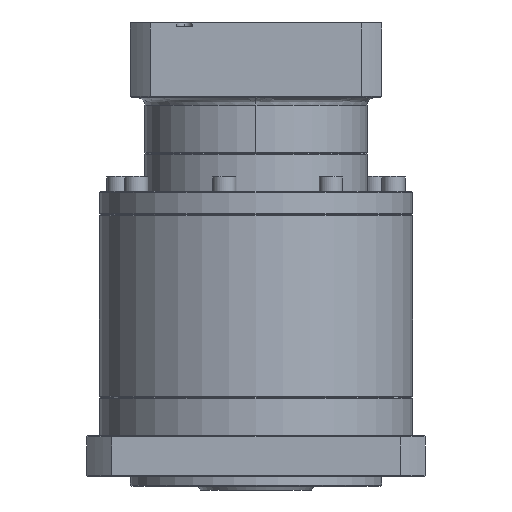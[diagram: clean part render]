
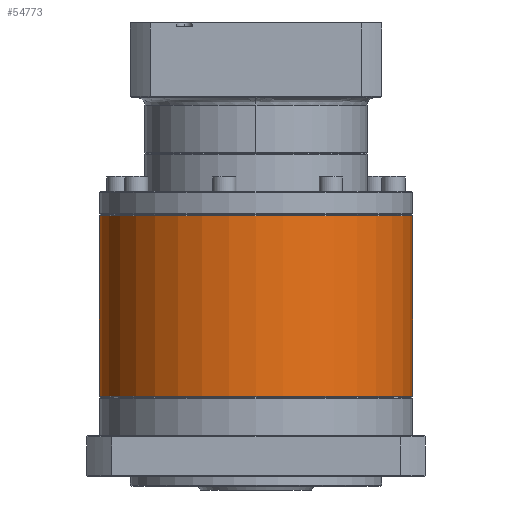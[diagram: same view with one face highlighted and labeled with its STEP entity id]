
A CAD part, left-side view. The second image highlights one B-rep face of the part: STEP entity #54773.
In plain terms, the highlighted cylindrical face has radius 81 mm (diameter 162 mm), a partial arc.
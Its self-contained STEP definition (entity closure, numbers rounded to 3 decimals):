
#4267 = EDGE_CURVE ( 'NONE', #60833, #15289, #89149, .T. ) ;
#10867 = ORIENTED_EDGE ( 'NONE', *, *, #86297, .F. ) ;
#14238 = DIRECTION ( 'NONE',  ( 0., 0., -1. ) ) ;
#14557 = EDGE_CURVE ( 'NONE', #24209, #60833, #25691, .T. ) ;
#15289 = VERTEX_POINT ( 'NONE', #16529 ) ;
#16529 = CARTESIAN_POINT ( 'NONE',  ( -129.032, 142.212, -169.292 ) ) ;
#21270 = DIRECTION ( 'NONE',  ( 0., 1., 0. ) ) ;
#22783 = VECTOR ( 'NONE', #81567, 1000. ) ;
#24209 = VERTEX_POINT ( 'NONE', #96293 ) ;
#24520 = ORIENTED_EDGE ( 'NONE', *, *, #35045, .T. ) ;
#24865 = DIRECTION ( 'NONE',  ( 0., 0., -1. ) ) ;
#25691 = CIRCLE ( 'NONE', #41854, 81. ) ;
#33601 = CARTESIAN_POINT ( 'NONE',  ( -129.032, 61.212, -169.292 ) ) ;
#35045 = EDGE_CURVE ( 'NONE', #15289, #67479, #41934, .T. ) ;
#36294 = ORIENTED_EDGE ( 'NONE', *, *, #14557, .T. ) ;
#38088 = AXIS2_PLACEMENT_3D ( 'NONE', #53869, #14238, #39109 ) ;
#39109 = DIRECTION ( 'NONE',  ( 0., 1., 0. ) ) ;
#41854 = AXIS2_PLACEMENT_3D ( 'NONE', #46805, #69282, #21270 ) ;
#41934 = CIRCLE ( 'NONE', #92979, 81. ) ;
#44084 = LINE ( 'NONE', #73886, #22783 ) ;
#46805 = CARTESIAN_POINT ( 'NONE',  ( -129.032, 61.212, -75.792 ) ) ;
#47099 = ORIENTED_EDGE ( 'NONE', *, *, #4267, .T. ) ;
#49677 = DIRECTION ( 'NONE',  ( 0., 1., 0. ) ) ;
#53869 = CARTESIAN_POINT ( 'NONE',  ( -129.032, 61.212, -75.292 ) ) ;
#53995 = VECTOR ( 'NONE', #24865, 1000. ) ;
#54773 = ADVANCED_FACE ( 'NONE', ( #97449 ), #92462, .T. ) ;
#60833 = VERTEX_POINT ( 'NONE', #77684 ) ;
#67479 = VERTEX_POINT ( 'NONE', #81764 ) ;
#69282 = DIRECTION ( 'NONE',  ( 0., 0., -1. ) ) ;
#71315 = EDGE_LOOP ( 'NONE', ( #10867, #36294, #47099, #24520 ) ) ;
#71860 = CARTESIAN_POINT ( 'NONE',  ( -129.032, 142.212, -75.292 ) ) ;
#73886 = CARTESIAN_POINT ( 'NONE',  ( -129.032, -19.788, -75.292 ) ) ;
#77684 = CARTESIAN_POINT ( 'NONE',  ( -129.032, 142.212, -75.792 ) ) ;
#81567 = DIRECTION ( 'NONE',  ( 0., 0., -1. ) ) ;
#81764 = CARTESIAN_POINT ( 'NONE',  ( -129.032, -19.788, -169.292 ) ) ;
#82252 = DIRECTION ( 'NONE',  ( 0., 0., 1. ) ) ;
#86297 = EDGE_CURVE ( 'NONE', #24209, #67479, #44084, .T. ) ;
#89149 = LINE ( 'NONE', #71860, #53995 ) ;
#92462 = CYLINDRICAL_SURFACE ( 'NONE', #38088, 81. ) ;
#92979 = AXIS2_PLACEMENT_3D ( 'NONE', #33601, #82252, #49677 ) ;
#96293 = CARTESIAN_POINT ( 'NONE',  ( -129.032, -19.788, -75.792 ) ) ;
#97449 = FACE_OUTER_BOUND ( 'NONE', #71315, .T. ) ;
